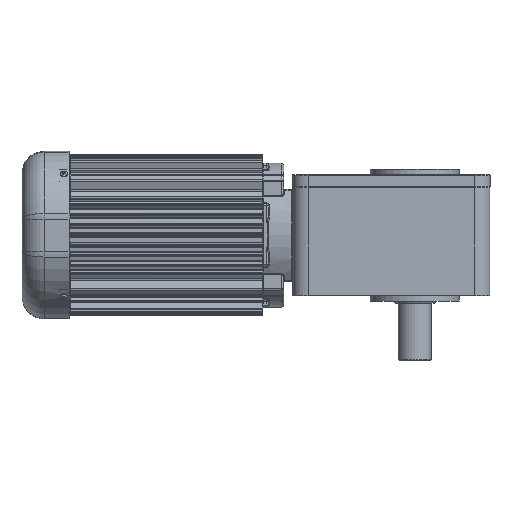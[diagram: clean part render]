
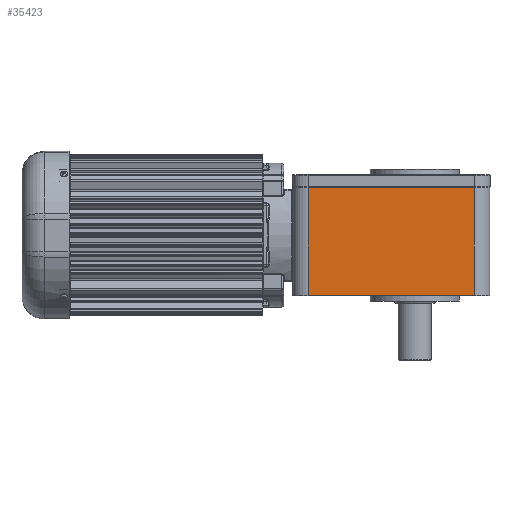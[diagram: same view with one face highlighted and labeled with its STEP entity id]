
A CAD part, front view. The second image highlights one B-rep face of the part: STEP entity #35423.
In plain terms, the highlighted planar face has unit normal (0, -1, 0).
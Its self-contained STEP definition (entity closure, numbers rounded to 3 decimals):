
#2742=LINE('',#64447,#5226);
#2771=LINE('',#64551,#5255);
#2782=LINE('',#64612,#5266);
#2783=LINE('',#64614,#5267);
#5226=VECTOR('',#48232,159.);
#5255=VECTOR('',#48359,159.);
#5266=VECTOR('',#48402,103.);
#5267=VECTOR('',#48405,103.);
#8506=FACE_OUTER_BOUND('',#10764,.T.);
#10764=EDGE_LOOP('',(#30196,#30197,#30198,#30199));
#16204=VERTEX_POINT('',#64441);
#16205=VERTEX_POINT('',#64445);
#16218=VERTEX_POINT('',#64493);
#16231=VERTEX_POINT('',#64547);
#20957=EDGE_CURVE('',#16205,#16204,#2742,.T.);
#21009=EDGE_CURVE('',#16218,#16231,#2771,.T.);
#21030=EDGE_CURVE('',#16204,#16218,#2782,.T.);
#21031=EDGE_CURVE('',#16205,#16231,#2783,.T.);
#30196=ORIENTED_EDGE('',*,*,#21009,.F.);
#30197=ORIENTED_EDGE('',*,*,#21030,.F.);
#30198=ORIENTED_EDGE('',*,*,#20957,.F.);
#30199=ORIENTED_EDGE('',*,*,#21031,.T.);
#33686=PLANE('',#39208);
#35423=ADVANCED_FACE('',(#8506),#33686,.T.);
#39208=AXIS2_PLACEMENT_3D('',#64613,#48403,#48404);
#48232=DIRECTION('',(1.,0.,0.));
#48359=DIRECTION('',(-1.,0.,0.));
#48402=DIRECTION('',(0.,0.,-1.));
#48403=DIRECTION('center_axis',(0.,-1.,0.));
#48404=DIRECTION('ref_axis',(0.,0.,-1.));
#48405=DIRECTION('',(0.,0.,-1.));
#64441=CARTESIAN_POINT('',(57.,-104.,45.5));
#64445=CARTESIAN_POINT('',(-102.,-104.,45.5));
#64447=CARTESIAN_POINT('',(-102.,-104.,45.5));
#64493=CARTESIAN_POINT('',(57.,-104.,-57.5));
#64547=CARTESIAN_POINT('',(-102.,-104.,-57.5));
#64551=CARTESIAN_POINT('',(57.,-104.,-57.5));
#64612=CARTESIAN_POINT('',(57.,-104.,45.5));
#64613=CARTESIAN_POINT('Origin',(57.,-104.,0.));
#64614=CARTESIAN_POINT('',(-102.,-104.,45.5));
